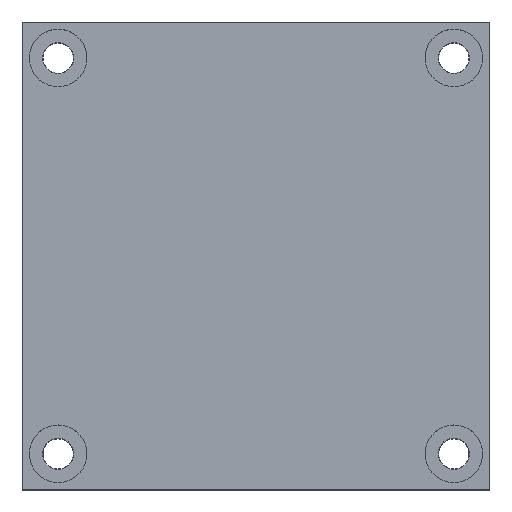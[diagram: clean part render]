
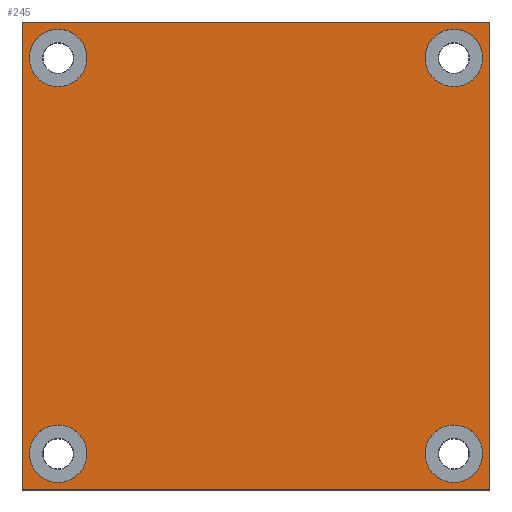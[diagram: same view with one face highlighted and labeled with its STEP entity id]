
A CAD part, top view. The second image highlights one B-rep face of the part: STEP entity #245.
In plain terms, the highlighted planar face has unit normal (0, 0, 1).
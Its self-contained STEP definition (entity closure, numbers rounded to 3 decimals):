
#10 = CARTESIAN_POINT ( 'NONE',  ( -27.5, -27.5, 11.5 ) ) ;
#34 = CARTESIAN_POINT ( 'NONE',  ( 0., 0., 11.5 ) ) ;
#43 = DIRECTION ( 'NONE',  ( 0., -1., 0. ) ) ;
#60 = CARTESIAN_POINT ( 'NONE',  ( 31.5, -27.5, 11.5 ) ) ;
#64 = AXIS2_PLACEMENT_3D ( 'NONE', #10, #2820, #713 ) ;
#68 = EDGE_CURVE ( 'NONE', #909, #754, #2019, .T. ) ;
#98 = VERTEX_POINT ( 'NONE', #670 ) ;
#117 = CARTESIAN_POINT ( 'NONE',  ( -32.5, 32.5, 11.5 ) ) ;
#158 = AXIS2_PLACEMENT_3D ( 'NONE', #730, #277, #2829 ) ;
#175 = EDGE_CURVE ( 'NONE', #1266, #489, #2625, .T. ) ;
#207 = CARTESIAN_POINT ( 'NONE',  ( 31.5, 27.5, 11.5 ) ) ;
#212 = DIRECTION ( 'NONE',  ( 0., 1., 0. ) ) ;
#245 = ADVANCED_FACE ( 'NONE', ( #2839, #2605, #1887, #1694, #759 ), #2125, .T. ) ;
#277 = DIRECTION ( 'NONE',  ( 0., 0., 1. ) ) ;
#324 = EDGE_CURVE ( 'NONE', #2682, #1957, #2379, .T. ) ;
#346 = CARTESIAN_POINT ( 'NONE',  ( -32.5, -32.5, 11.5 ) ) ;
#349 = DIRECTION ( 'NONE',  ( -1., 0., 0. ) ) ;
#354 = CIRCLE ( 'NONE', #2059, 4. ) ;
#419 = VECTOR ( 'NONE', #43, 1000. ) ;
#449 = CARTESIAN_POINT ( 'NONE',  ( -31.5, -27.5, 11.5 ) ) ;
#450 = CARTESIAN_POINT ( 'NONE',  ( -23.5, -27.5, 11.5 ) ) ;
#489 = VERTEX_POINT ( 'NONE', #450 ) ;
#498 = DIRECTION ( 'NONE',  ( 1., 0., 0. ) ) ;
#501 = CARTESIAN_POINT ( 'NONE',  ( 32.5, -32.5, 11.5 ) ) ;
#542 = ORIENTED_EDGE ( 'NONE', *, *, #2296, .F. ) ;
#558 = CARTESIAN_POINT ( 'NONE',  ( -32.5, 32.5, 11.5 ) ) ;
#559 = DIRECTION ( 'NONE',  ( 1., 0., 0. ) ) ;
#618 = VERTEX_POINT ( 'NONE', #2859 ) ;
#646 = ORIENTED_EDGE ( 'NONE', *, *, #1799, .F. ) ;
#670 = CARTESIAN_POINT ( 'NONE',  ( -31.5, 27.5, 11.5 ) ) ;
#682 = CARTESIAN_POINT ( 'NONE',  ( -32.5, -32.5, 11.5 ) ) ;
#686 = EDGE_LOOP ( 'NONE', ( #725, #2705, #1698, #1244 ) ) ;
#713 = DIRECTION ( 'NONE',  ( 1., 0., 0. ) ) ;
#725 = ORIENTED_EDGE ( 'NONE', *, *, #68, .T. ) ;
#730 = CARTESIAN_POINT ( 'NONE',  ( -27.5, -27.5, 11.5 ) ) ;
#750 = VECTOR ( 'NONE', #349, 1000. ) ;
#754 = VERTEX_POINT ( 'NONE', #1029 ) ;
#759 = FACE_OUTER_BOUND ( 'NONE', #686, .T. ) ;
#778 = EDGE_CURVE ( 'NONE', #754, #2682, #2182, .T. ) ;
#843 = VECTOR ( 'NONE', #212, 1000. ) ;
#864 = DIRECTION ( 'NONE',  ( 0., 0., 1. ) ) ;
#884 = CARTESIAN_POINT ( 'NONE',  ( 32.5, 32.5, 11.5 ) ) ;
#909 = VERTEX_POINT ( 'NONE', #501 ) ;
#1029 = CARTESIAN_POINT ( 'NONE',  ( 32.5, 32.5, 11.5 ) ) ;
#1130 = CARTESIAN_POINT ( 'NONE',  ( -27.5, 27.5, 11.5 ) ) ;
#1196 = ORIENTED_EDGE ( 'NONE', *, *, #2474, .F. ) ;
#1202 = CARTESIAN_POINT ( 'NONE',  ( -32.5, 32.5, 11.5 ) ) ;
#1203 = DIRECTION ( 'NONE',  ( 0., 0., 1. ) ) ;
#1244 = ORIENTED_EDGE ( 'NONE', *, *, #2821, .T. ) ;
#1266 = VERTEX_POINT ( 'NONE', #449 ) ;
#1302 = LINE ( 'NONE', #346, #2571 ) ;
#1424 = ORIENTED_EDGE ( 'NONE', *, *, #2041, .F. ) ;
#1430 = EDGE_LOOP ( 'NONE', ( #2225, #1196 ) ) ;
#1470 = DIRECTION ( 'NONE',  ( 0., 0., 1. ) ) ;
#1581 = AXIS2_PLACEMENT_3D ( 'NONE', #2606, #1203, #2139 ) ;
#1605 = CARTESIAN_POINT ( 'NONE',  ( 23.5, 27.5, 11.5 ) ) ;
#1665 = CARTESIAN_POINT ( 'NONE',  ( 27.5, -27.5, 11.5 ) ) ;
#1694 = FACE_BOUND ( 'NONE', #1430, .T. ) ;
#1698 = ORIENTED_EDGE ( 'NONE', *, *, #324, .T. ) ;
#1766 = DIRECTION ( 'NONE',  ( 1., 0., 0. ) ) ;
#1799 = EDGE_CURVE ( 'NONE', #1936, #3028, #1885, .T. ) ;
#1825 = DIRECTION ( 'NONE',  ( 0., 0., 1. ) ) ;
#1875 = DIRECTION ( 'NONE',  ( 0., 0., 1. ) ) ;
#1885 = CIRCLE ( 'NONE', #2735, 4. ) ;
#1887 = FACE_BOUND ( 'NONE', #2717, .T. ) ;
#1936 = VERTEX_POINT ( 'NONE', #1605 ) ;
#1957 = VERTEX_POINT ( 'NONE', #682 ) ;
#2019 = LINE ( 'NONE', #884, #843 ) ;
#2041 = EDGE_CURVE ( 'NONE', #3028, #1936, #2679, .T. ) ;
#2059 = AXIS2_PLACEMENT_3D ( 'NONE', #2799, #864, #2302 ) ;
#2085 = VERTEX_POINT ( 'NONE', #60 ) ;
#2096 = ORIENTED_EDGE ( 'NONE', *, *, #2222, .F. ) ;
#2116 = DIRECTION ( 'NONE',  ( 1., 0., 0. ) ) ;
#2125 = PLANE ( 'NONE',  #2166 ) ;
#2139 = DIRECTION ( 'NONE',  ( 1., 0., 0. ) ) ;
#2165 = DIRECTION ( 'NONE',  ( 0., 0., 1. ) ) ;
#2166 = AXIS2_PLACEMENT_3D ( 'NONE', #34, #2165, #498 ) ;
#2182 = LINE ( 'NONE', #117, #750 ) ;
#2206 = EDGE_LOOP ( 'NONE', ( #2355, #2298 ) ) ;
#2222 = EDGE_CURVE ( 'NONE', #98, #2520, #2565, .T. ) ;
#2225 = ORIENTED_EDGE ( 'NONE', *, *, #2385, .F. ) ;
#2238 = CARTESIAN_POINT ( 'NONE',  ( -23.5, 27.5, 11.5 ) ) ;
#2280 = AXIS2_PLACEMENT_3D ( 'NONE', #2384, #1470, #2116 ) ;
#2296 = EDGE_CURVE ( 'NONE', #2520, #98, #354, .T. ) ;
#2298 = ORIENTED_EDGE ( 'NONE', *, *, #175, .F. ) ;
#2302 = DIRECTION ( 'NONE',  ( 1., 0., 0. ) ) ;
#2308 = AXIS2_PLACEMENT_3D ( 'NONE', #1130, #1825, #2574 ) ;
#2311 = CIRCLE ( 'NONE', #1581, 4. ) ;
#2355 = ORIENTED_EDGE ( 'NONE', *, *, #2463, .F. ) ;
#2379 = LINE ( 'NONE', #1202, #419 ) ;
#2384 = CARTESIAN_POINT ( 'NONE',  ( 27.5, 27.5, 11.5 ) ) ;
#2385 = EDGE_CURVE ( 'NONE', #2085, #618, #2408, .T. ) ;
#2408 = CIRCLE ( 'NONE', #2808, 4. ) ;
#2463 = EDGE_CURVE ( 'NONE', #489, #1266, #2893, .T. ) ;
#2474 = EDGE_CURVE ( 'NONE', #618, #2085, #2311, .T. ) ;
#2520 = VERTEX_POINT ( 'NONE', #2238 ) ;
#2565 = CIRCLE ( 'NONE', #2308, 4. ) ;
#2571 = VECTOR ( 'NONE', #1766, 1000. ) ;
#2574 = DIRECTION ( 'NONE',  ( 1., 0., 0. ) ) ;
#2605 = FACE_BOUND ( 'NONE', #2663, .T. ) ;
#2606 = CARTESIAN_POINT ( 'NONE',  ( 27.5, -27.5, 11.5 ) ) ;
#2625 = CIRCLE ( 'NONE', #64, 4. ) ;
#2633 = DIRECTION ( 'NONE',  ( 1., 0., 0. ) ) ;
#2657 = DIRECTION ( 'NONE',  ( 0., 0., 1. ) ) ;
#2663 = EDGE_LOOP ( 'NONE', ( #542, #2096 ) ) ;
#2679 = CIRCLE ( 'NONE', #2280, 4. ) ;
#2682 = VERTEX_POINT ( 'NONE', #558 ) ;
#2705 = ORIENTED_EDGE ( 'NONE', *, *, #778, .T. ) ;
#2717 = EDGE_LOOP ( 'NONE', ( #1424, #646 ) ) ;
#2735 = AXIS2_PLACEMENT_3D ( 'NONE', #2877, #2657, #559 ) ;
#2799 = CARTESIAN_POINT ( 'NONE',  ( -27.5, 27.5, 11.5 ) ) ;
#2808 = AXIS2_PLACEMENT_3D ( 'NONE', #1665, #1875, #2633 ) ;
#2820 = DIRECTION ( 'NONE',  ( 0., 0., 1. ) ) ;
#2821 = EDGE_CURVE ( 'NONE', #1957, #909, #1302, .T. ) ;
#2829 = DIRECTION ( 'NONE',  ( 1., 0., 0. ) ) ;
#2839 = FACE_BOUND ( 'NONE', #2206, .T. ) ;
#2859 = CARTESIAN_POINT ( 'NONE',  ( 23.5, -27.5, 11.5 ) ) ;
#2877 = CARTESIAN_POINT ( 'NONE',  ( 27.5, 27.5, 11.5 ) ) ;
#2893 = CIRCLE ( 'NONE', #158, 4. ) ;
#3028 = VERTEX_POINT ( 'NONE', #207 ) ;
